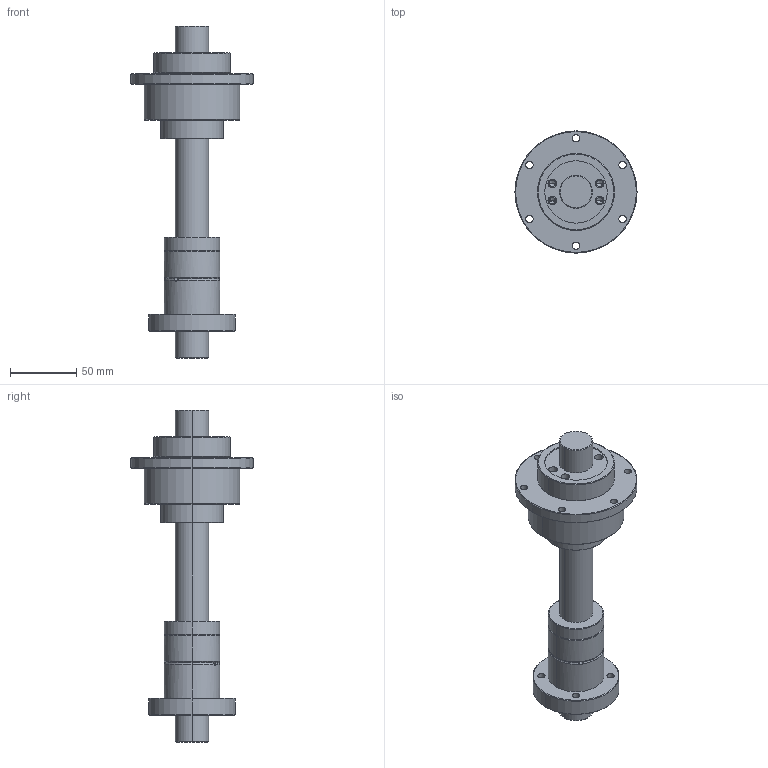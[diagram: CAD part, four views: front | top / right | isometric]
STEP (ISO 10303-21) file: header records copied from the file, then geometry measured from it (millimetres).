
FILE_DESCRIPTION (( 'STEP AP203' ), '1' );
FILE_NAME ('RBLY2525.STEP', '2014-11-13T08:57:45', ( '' ), ( '' ), 'SwSTEP 2.0', 'SolidWorks 2014', '' );
FILE_SCHEMA (( 'CONFIG_CONTROL_DESIGN' ));
Length unit declared in the file: millimetre
Products named in the file (4): SLF25; RFBY2525; SC25; RBLY2525
Assembly tree (3 placements, depth 2):
  RBLY2525
    SC25
    RFBY2525
    SLF25
Bounding box: 92 x 92 x 250 mm (x, y, z)
Volume: 401067 mm3; surface area: 85495.4 mm2
Topology: 5 solids, 5 shells, 167 faces, 403 edges, 251 vertices
Faces by surface type: cylinder 90, plane 33, cone 28, torus 16
Entity records: 5536 total; most frequent: CARTESIAN_POINT 1039, DIRECTION 950, ORIENTED_EDGE 790, AXIS2_PLACEMENT_3D 402, EDGE_CURVE 395, VERTEX_POINT 251, CIRCLE 229, EDGE_LOOP 212
